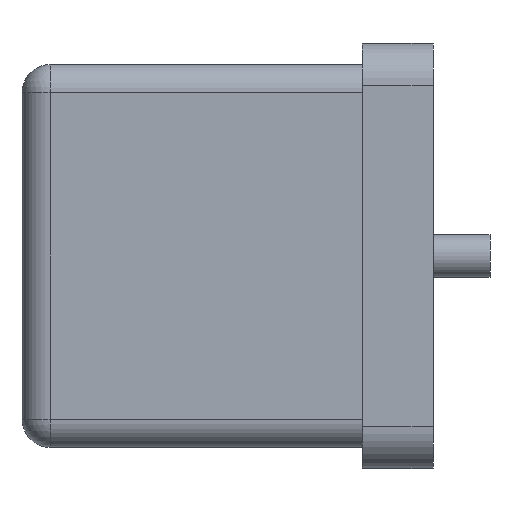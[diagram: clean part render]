
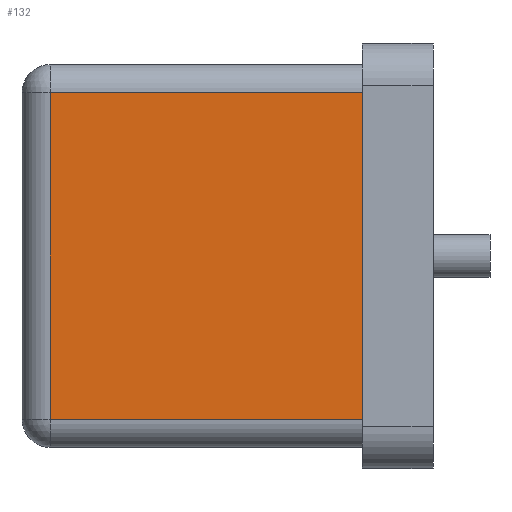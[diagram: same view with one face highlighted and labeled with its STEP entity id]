
A CAD part, left-side view. The second image highlights one B-rep face of the part: STEP entity #132.
In plain terms, the highlighted planar face has unit normal (-1, 0, 0).
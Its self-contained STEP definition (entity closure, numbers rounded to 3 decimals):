
#132 = ADVANCED_FACE( '', ( #281 ), #282, .F. );
#281 = FACE_OUTER_BOUND( '', #700, .T. );
#282 = PLANE( '', #701 );
#700 = EDGE_LOOP( '', ( #996, #997, #998, #999 ) );
#701 = AXIS2_PLACEMENT_3D( '', #1000, #1001, #1002 );
#996 = ORIENTED_EDGE( '', *, *, #1232, .T. );
#997 = ORIENTED_EDGE( '', *, *, #1147, .T. );
#998 = ORIENTED_EDGE( '', *, *, #1195, .T. );
#999 = ORIENTED_EDGE( '', *, *, #1198, .T. );
#1000 = CARTESIAN_POINT( '', ( 1.5, 29., 1.5 ) );
#1001 = DIRECTION( '', ( 1., 0., 0. ) );
#1002 = DIRECTION( '', ( 0., 0., -1. ) );
#1147 = EDGE_CURVE( '', #1313, #1310, #1314, .T. );
#1195 = EDGE_CURVE( '', #1310, #1386, #1388, .T. );
#1198 = EDGE_CURVE( '', #1386, #1303, #1391, .F. );
#1232 = EDGE_CURVE( '', #1303, #1313, #1433, .F. );
#1303 = VERTEX_POINT( '', #1520 );
#1310 = VERTEX_POINT( '', #1527 );
#1313 = VERTEX_POINT( '', #1530 );
#1314 = LINE( '', #1531, #1532 );
#1386 = VERTEX_POINT( '', #1699 );
#1388 = LINE( '', #1701, #1702 );
#1391 = LINE( '', #1706, #1707 );
#1433 = LINE( '', #1762, #1763 );
#1520 = CARTESIAN_POINT( '', ( 1.5, 27., 26.5 ) );
#1527 = CARTESIAN_POINT( '', ( 1.5, 5., 3.5 ) );
#1530 = CARTESIAN_POINT( '', ( 1.5, 27., 3.5 ) );
#1531 = CARTESIAN_POINT( '', ( 1.5, 29., 3.5 ) );
#1532 = VECTOR( '', #1838, 1000. );
#1699 = CARTESIAN_POINT( '', ( 1.5, 5., 26.5 ) );
#1701 = CARTESIAN_POINT( '', ( 1.5, 5., 1.5 ) );
#1702 = VECTOR( '', #1910, 1000. );
#1706 = CARTESIAN_POINT( '', ( 1.5, 29., 26.5 ) );
#1707 = VECTOR( '', #1912, 1000. );
#1762 = CARTESIAN_POINT( '', ( 1.5, 27., 1.5 ) );
#1763 = VECTOR( '', #1947, 1000. );
#1838 = DIRECTION( '', ( 0., -1., 0. ) );
#1910 = DIRECTION( '', ( 0., 0., 1. ) );
#1912 = DIRECTION( '', ( 0., -1., 0. ) );
#1947 = DIRECTION( '', ( 0., 0., 1. ) );
